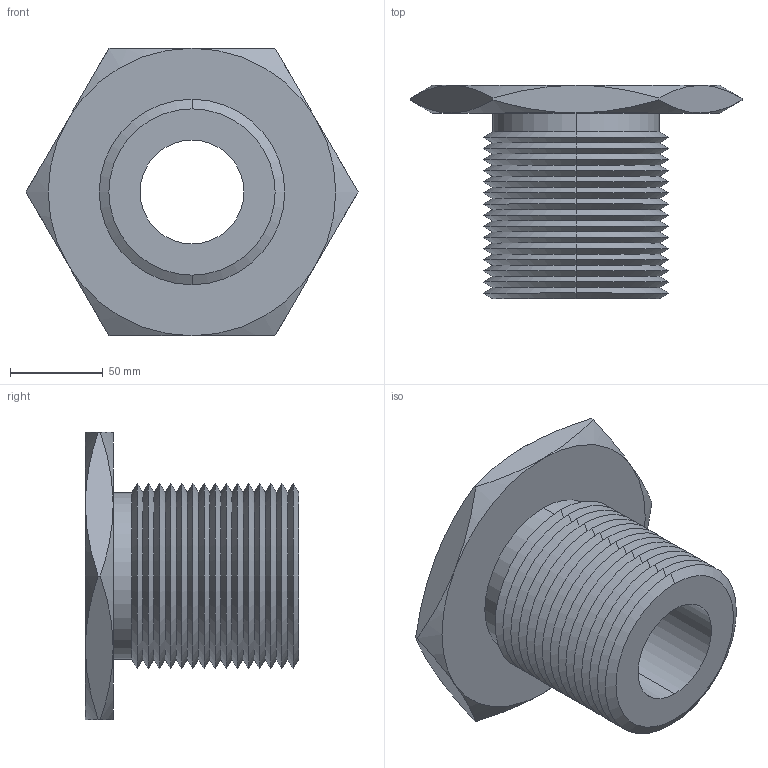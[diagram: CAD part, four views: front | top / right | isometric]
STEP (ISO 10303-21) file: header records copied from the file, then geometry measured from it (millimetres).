
FILE_DESCRIPTION (( 'STEP AP203' ), '1' );
FILE_NAME ('63302.W0100_M56x4.step', '2013-12-08T11:31:37', ( 'User' ), ( '' ), 'SwSTEP 2.0', 'SolidWorks 2009', '' );
FILE_SCHEMA (( 'CONFIG_CONTROL_DESIGN' ));
Length unit declared in the file: millimetre
Products named in the file (1): 63302.W0100_M56x4
Bounding box: 178.98 x 115 x 155 mm (x, y, z)
Volume: 718297.7 mm3; surface area: 119056.1 mm2
Topology: 1 solids, 1 shells, 87 faces, 178 edges, 94 vertices
Faces by surface type: cone 74, plane 9, cylinder 4
Entity records: 2479 total; most frequent: CARTESIAN_POINT 584, DIRECTION 412, ORIENTED_EDGE 356, EDGE_CURVE 178, AXIS2_PLACEMENT_3D 170, VERTEX_POINT 94, EDGE_LOOP 90, ADVANCED_FACE 87
